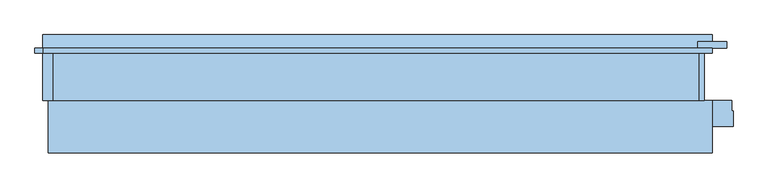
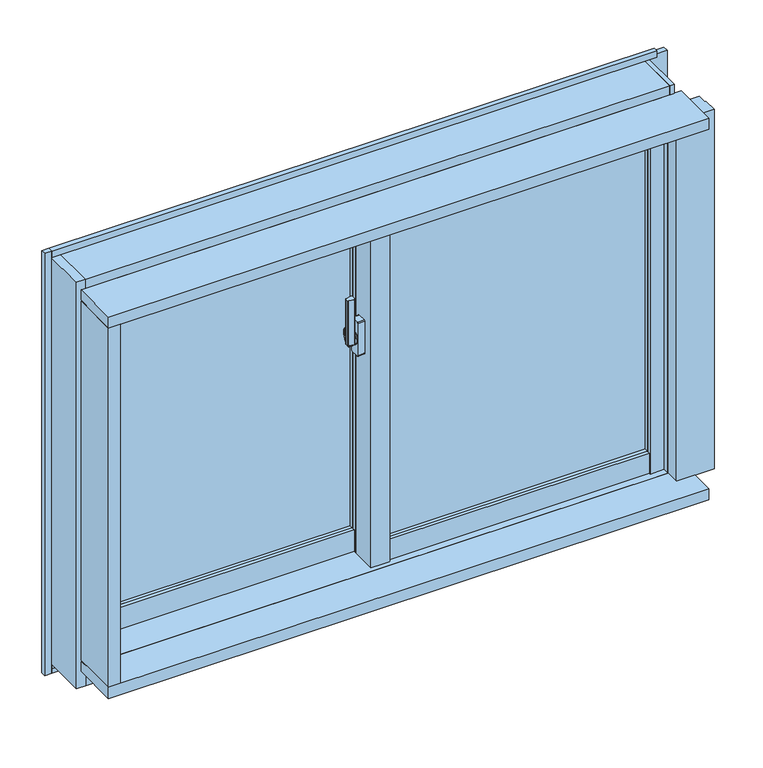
"""IFC4 building model written with IfcOpenShell, lengths in millimetres: window geometry, FNSⅡ100R_個別防火_ALC枠_単窓 : 引違."""

from ifc_helpers import new_model, si_unit, point, frame, frame_2d, origin, place, context, project, spatial, polyline, circle_curve, trimmed, segment, composite_curve, outline, extrude, faceted_brep, source, transform, mapped, element, save
from ifc_brep_helpers import plane_surface, cylinder_surface, revolved_surface, advanced_brep


def window_6e129dcf(model_context):
    return source(origin(), model_context, "Body", "SolidModel", [
        extrude(outline(composite_curve([segment(polyline([(-39.0, 14.6), (-39.0, 6.4)]), True, "CONTINUOUS"), segment(trimmed(circle_curve(frame_2d((-41.0, 6.4)), 2.0), [point((-39.0, 6.4))], [point((-41.3606557, 4.4327869))], False, "CARTESIAN"), True, "CONTINUOUS"), segment(polyline([(-41.3606557, 4.4327869), (-52.3606557, 6.4494536)]), True, "CONTINUOUS"), segment(trimmed(circle_curve(frame_2d((-52.0, 8.4166667)), 2.0), [point((-52.3606557, 6.4494536))], [point((-54.0, 8.4166667))], False, "CARTESIAN"), True, "CONTINUOUS"), segment(polyline([(-54.0, 8.4166667), (-54.0, 12.5833333)]), True, "CONTINUOUS"), segment(trimmed(circle_curve(frame_2d((-52.0, 12.5833333)), 2.0), [point((-54.0, 12.5833333))], [point((-52.3606557, 14.5505464))], False, "CARTESIAN"), True, "CONTINUOUS"), segment(polyline([(-52.3606557, 14.5505464), (-41.3606557, 16.5672131)]), True, "CONTINUOUS"), segment(trimmed(circle_curve(frame_2d((-41.0, 14.6)), 2.0), [point((-41.3606557, 16.5672131))], [point((-39.0, 14.6))], False, "CARTESIAN"), True, "CONTINUOUS")], self_intersect=False)), frame((0.0, 0.0, 1390.0), z_axis=(0.0, 0.0, 1.0), x_axis=(1.0, 0.0, 0.0)), (0.0, 0.0, 1.0), 100.0),
        advanced_brep(
        [(-37.5, 18.8234285, 1421.7333311), (-45.5, 18.8234285, 1421.7333311), (-45.5, 18.4351999, 1420.2844424), (-39.0, 18.4351999, 1420.2844424), (-39.0, 16.6234666, 1413.5229616), (-37.5, 16.6234666, 1413.5229616), (-39.0, 16.6466117, 1379.3190372), (-45.5, 16.6466117, 1379.3190372), (-45.5, 16.907084, 1377.8418256), (-37.5, 16.907084, 1377.8418256), (-37.5, 15.4310745, 1386.2126915), (-39.0, 15.4310745, 1386.2126915)],
        [
            (0, 1),
            (1, 2),
            (2, 3),
            (3, 4),
            (4, 5),
            (5, 0),
            (6, 7),
            (7, 8),
            (8, 9),
            (9, 10),
            (10, 11),
            (11, 6),
            (0, 9, circle_curve(frame((-37.5, 13.0, 1400.0), z_axis=(-1.0, 0.0, 0.0), x_axis=(0.0, 0.25881904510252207, 0.965925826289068)), 22.5)),
            (8, 1, circle_curve(frame((-45.5, 13.0, 1400.0), z_axis=(1.0, 0.0, 0.0), x_axis=(0.0, 0.25881904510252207, 0.965925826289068)), 22.5)),
            (7, 2, circle_curve(frame((-45.5, 13.0, 1400.0), z_axis=(1.0, 0.0, 0.0), x_axis=(0.0, 0.25881904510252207, 0.965925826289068)), 21.0)),
            (6, 3, circle_curve(frame((-39.0, 13.0, 1400.0), z_axis=(1.0, 0.0, 0.0), x_axis=(0.0, 0.25881904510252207, 0.965925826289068)), 21.0)),
            (11, 4, circle_curve(frame((-39.0, 13.0, 1400.0), z_axis=(-1.0, 0.0, 0.0), x_axis=(0.0, -1.0, 0.0)), 14.0)),
            (5, 10, circle_curve(frame((-37.5, 13.0, 1400.0), z_axis=(1.0, 0.0, 0.0), x_axis=(0.0, -1.0, 0.0)), 14.0)),
        ],
        [
            plane_surface(frame((-43.5470497, 13.0, 1400.0), z_axis=(0.0, -0.965925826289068, 0.25881904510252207), x_axis=(0.0, 0.25881904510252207, 0.965925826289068))),
            plane_surface(frame((-43.5470497, 13.0, 1400.0), z_axis=(0.0, -0.9848077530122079, -0.17364817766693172), x_axis=(0.0, 0.17364817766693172, -0.9848077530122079))),
            cylinder_surface(frame((-43.5470497, 13.0, 1400.0), z_axis=(-1.0, 0.0, 0.0), x_axis=(0.0, 0.25881904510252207, 0.965925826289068)), 22.5),
            plane_surface(frame((-45.5, 13.0, 1400.0), z_axis=(-1.0, 0.0, 0.0), x_axis=(0.0, 0.25881904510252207, 0.965925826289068))),
            revolved_surface(polyline([(-45.5, 18.435199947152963, 1420.2844423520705), (-39.0, 18.435199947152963, 1420.2844423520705)]), (-43.5470497, 13.0, 1400.0), (-1.0, 0.0, 0.0)),
            plane_surface(frame((-39.0, 13.0, 1400.0), z_axis=(-1.0, 0.0, 0.0), x_axis=(0.0, 0.25881904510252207, 0.965925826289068))),
            plane_surface(frame((-37.5, 13.0, 1400.0), z_axis=(1.0, 0.0, 0.0), x_axis=(0.0, 0.25881904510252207, 0.965925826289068))),
            cylinder_surface(frame((-37.5, 13.0, 1400.0), z_axis=(-1.0, 0.0, 0.0), x_axis=(0.0, -1.0, 0.0)), 14.0),
        ],
        [
            (0, [[1, 2, 3, 4, 5, 6]]),
            (1, [[7, 8, 9, 10, 11, 12]]),
            (2, [[-1, 13, -9, 14]]),
            (3, [[-2, -14, -8, 15]]),
            (4, [[-3, -15, -7, 16]]),
            (5, [[-16, -12, 17, -4]]),
            (6, [[-13, -6, 18, -10]]),
            (7, [[-17, -11, -18, -5]]),
        ],
    ),
        extrude(outline(composite_curve([segment(trimmed(circle_curve(frame_2d((13.0, 1400.0)), 11.5), [point((24.5, 1400.0))], [point((1.5, 1400.0))], False, "CARTESIAN"), True, "CONTINUOUS"), segment(trimmed(circle_curve(frame_2d((13.0, 1400.0)), 11.5), [point((1.5, 1400.0))], [point((24.5, 1400.0))], False, "CARTESIAN"), True, "CONTINUOUS")], self_intersect=False)), frame((-37.5, 0.0, 0.0), z_axis=(1.0, 0.0, 0.0), x_axis=(0.0, 1.0, 0.0)), (0.0, 0.0, 1.0), 2.5),
        extrude(outline(composite_curve([segment(polyline([(4.0, 1437.5), (22.0, 1437.5)]), True, "CONTINUOUS"), segment(trimmed(circle_curve(frame_2d((22.0, 1435.5)), 2.0), [point((22.0, 1437.5))], [point((24.0, 1435.5))], False, "CARTESIAN"), True, "CONTINUOUS"), segment(polyline([(24.0, 1435.5), (24.0, 1364.5)]), True, "CONTINUOUS"), segment(trimmed(circle_curve(frame_2d((22.0, 1364.5)), 2.0), [point((24.0, 1364.5))], [point((22.0, 1362.5))], False, "CARTESIAN"), True, "CONTINUOUS"), segment(polyline([(22.0, 1362.5), (4.0, 1362.5)]), True, "CONTINUOUS"), segment(trimmed(circle_curve(frame_2d((4.0, 1364.5)), 2.0), [point((4.0, 1362.5))], [point((2.0, 1364.5))], False, "CARTESIAN"), True, "CONTINUOUS"), segment(polyline([(2.0, 1364.5), (2.0, 1435.5)]), True, "CONTINUOUS"), segment(trimmed(circle_curve(frame_2d((4.0, 1435.5)), 2.0), [point((2.0, 1435.5))], [point((4.0, 1437.5))], False, "CARTESIAN"), True, "CONTINUOUS")], self_intersect=False)), frame((-35.0, 0.0, 0.0), z_axis=(1.0, 0.0, 0.0), x_axis=(0.0, 1.0, 0.0)), (0.0, 0.0, 1.0), 15.0),
        extrude(outline(polyline([(20.0, 4.0), (568.0, 4.0), (568.0, -2.0), (20.0, -2.0), (20.0, 4.0)])), frame((0.0, 0.0, 948.0), z_axis=(0.0, 0.0, 1.0), x_axis=(1.0, 0.0, 0.0)), (0.0, 0.0, 1.0), 712.0),
        extrude(outline(polyline([(20.0, 22.0), (568.0, 22.0), (568.0, 16.0), (20.0, 16.0), (20.0, 22.0)])), frame((0.0, 0.0, 948.0), z_axis=(0.0, 0.0, 1.0), x_axis=(1.0, 0.0, 0.0)), (0.0, 0.0, 1.0), 712.0),
        extrude(outline(polyline([(-568.0, 62.0), (-20.0, 62.0), (-20.0, 56.0), (-568.0, 56.0), (-568.0, 62.0)])), frame((0.0, 0.0, 948.0), z_axis=(0.0, 0.0, 1.0), x_axis=(1.0, 0.0, 0.0)), (0.0, 0.0, 1.0), 712.0),
        extrude(outline(polyline([(-568.0, 80.0), (-20.0, 80.0), (-20.0, 74.0), (-568.0, 74.0), (-568.0, 80.0)])), frame((0.0, 0.0, 948.0), z_axis=(0.0, 0.0, 1.0), x_axis=(1.0, 0.0, 0.0)), (0.0, 0.0, 1.0), 712.0),
        faceted_brep([(-589.5, 59.0, 1700.0), (-600.0, 59.0, 1700.0), (-600.0, 59.0, 860.0), (-568.0, 59.0, 860.0), (-568.0, 59.0, 900.0), (-589.5, 59.0, 900.0), (-589.5, 46.0, 1700.0), (-589.5, 46.0, 900.0), (-568.0, 46.0, 1700.0), (-568.0, 46.0, 900.0), (-600.0, 88.0, 1700.0), (-568.0, 88.0, 1700.0), (-568.0, 88.0, 860.0), (-600.0, 88.0, 860.0)], [[[0, 1, 2, 3, 4, 5]], [[6, 0, 5, 7]], [[8, 6, 7, 9]], [[10, 11, 12, 13]], [[2, 1, 10, 13]], [[5, 4, 9, 7]], [[1, 0, 6, 8, 11, 10]], [[3, 2, 13, 12]], [[11, 8, 9, 4, 3, 12]]]),
        faceted_brep([(-1.8, 45.5, 1700.0), (-20.0, 45.5, 1700.0), (-20.0, 45.5, 900.0), (-1.8, 45.5, 900.0), (-1.8, 33.1, 1700.0), (-1.8, 33.1, 900.0), (20.0, 33.1, 1700.0), (20.0, 33.1, 900.0), (-20.0, 88.0, 1700.0), (20.0, 88.0, 1700.0), (20.0, 88.0, 860.0), (-20.0, 88.0, 860.0), (-20.0, 59.0, 900.0), (20.0, 59.0, 900.0), (20.0, 59.0, 860.0), (-20.0, 59.0, 860.0)], [[[0, 1, 2, 3]], [[4, 0, 3, 5]], [[6, 4, 5, 7]], [[8, 9, 10, 11]], [[12, 13, 7, 5, 3, 2]], [[1, 0, 4, 6, 9, 8]], [[11, 10, 14, 15]], [[9, 6, 7, 13, 14, 10]], [[1, 8, 11, 15, 12, 2]], [[13, 12, 15, 14]]]),
        extrude(outline(polyline([(-20.0, 33.1), (-15.0, 33.1), (-15.0, -12.0), (15.0, -12.0), (15.0, -8.0), (20.0, -8.0), (20.0, -20.0), (-20.0, -20.0), (-20.0, 33.1)])), frame((0.0, 0.0, 900.0), z_axis=(0.0, 0.0, 1.0), x_axis=(1.0, 0.0, 0.0)), (0.0, 0.0, 1.0), 800.0),
        extrude(outline(polyline([(-15.0, 33.1), (20.0, 33.1), (20.0, -8.0), (15.0, -8.0), (15.0, -12.0), (-15.0, -12.0), (-15.0, 33.1)])), frame((0.0, 0.0, 900.0), z_axis=(0.0, 0.0, 1.0), x_axis=(1.0, 0.0, 0.0)), (0.0, 0.0, 1.0), 800.0),
        extrude(outline(polyline([(568.0, -20.0), (568.0, -12.0), (589.5, -12.0), (589.5, 1.0), (597.0, 1.0), (597.0, -20.0), (568.0, -20.0)])), frame((0.0, 0.0, 903.0), z_axis=(0.0, 0.0, 1.0), x_axis=(1.0, 0.0, 0.0)), (0.0, 0.0, 1.0), 797.0),
        extrude(outline(polyline([(568.0, 30.0), (600.0, 30.0), (600.0, 1.0), (589.5, 1.0), (589.5, -12.0), (568.0, -12.0), (568.0, 30.0)])), frame((0.0, 0.0, 900.0), z_axis=(0.0, 0.0, 1.0), x_axis=(1.0, 0.0, 0.0)), (0.0, 0.0, 1.0), 800.0),
        extrude(outline(polyline([(-1.85, 45.5), (-1.85, 38.0), (-20.0, 38.0), (-20.0, 45.5), (-1.85, 45.5)])), frame((0.0, 0.0, 900.0), z_axis=(0.0, 0.0, 1.0), x_axis=(1.0, 0.0, 0.0)), (0.0, 0.0, 1.0), 800.0),
        extrude(outline(polyline([(-597.0, 59.0), (-589.5, 59.0), (-589.5, 46.0), (-568.0, 46.0), (-568.0, 38.0), (-597.0, 38.0), (-597.0, 59.0)])), frame((0.0, 0.0, 900.0), z_axis=(0.0, 0.0, 1.0), x_axis=(1.0, 0.0, 0.0)), (0.0, 0.0, 1.0), 800.0),
        extrude(outline(polyline([(-18.0, 903.0), (-18.0, 948.0), (-10.0, 948.0), (-10.0, 925.5), (1.0, 925.5), (1.0, 903.0), (-18.0, 903.0)])), frame((20.0, 0.0, 0.0), z_axis=(1.0, 0.0, 0.0), x_axis=(0.0, 1.0, 0.0)), (0.0, 0.0, 1.0), 548.0),
        extrude(outline(polyline([(30.0, 900.0), (1.0, 900.0), (1.0, 925.5), (-10.0, 925.5), (-10.0, 948.0), (30.0, 948.0), (30.0, 900.0)])), frame((20.0, 0.0, 0.0), z_axis=(1.0, 0.0, 0.0), x_axis=(0.0, 1.0, 0.0)), (0.0, 0.0, 1.0), 548.0),
        extrude(outline(polyline([(40.0, 948.0), (48.0, 948.0), (48.0, 925.5), (59.0, 925.5), (59.0, 900.0), (40.0, 900.0), (40.0, 948.0)])), frame((-568.0, 0.0, 0.0), z_axis=(1.0, 0.0, 0.0), x_axis=(0.0, 1.0, 0.0)), (0.0, 0.0, 1.0), 548.0),
        extrude(outline(polyline([(88.0, 860.0), (59.0, 860.0), (59.0, 925.5), (48.0, 925.5), (48.0, 948.0), (88.0, 948.0), (88.0, 860.0)])), frame((-568.0, 0.0, 0.0), z_axis=(1.0, 0.0, 0.0), x_axis=(0.0, 1.0, 0.0)), (0.0, 0.0, 1.0), 548.0),
        extrude(outline(polyline([(3.0, 1680.5), (-10.0, 1680.5), (-10.0, 1660.0), (-18.0, 1660.0), (-18.0, 1700.0), (3.0, 1700.0), (3.0, 1680.5)])), frame((20.0, 0.0, 0.0), z_axis=(1.0, 0.0, 0.0), x_axis=(0.0, 1.0, 0.0)), (0.0, 0.0, 1.0), 548.0),
        extrude(outline(polyline([(30.0, 1700.0), (30.0, 1660.0), (-10.0, 1660.0), (-10.0, 1680.5), (3.0, 1680.5), (3.0, 1700.0), (30.0, 1700.0)])), frame((20.0, 0.0, 0.0), z_axis=(1.0, 0.0, 0.0), x_axis=(0.0, 1.0, 0.0)), (0.0, 0.0, 1.0), 548.0),
        extrude(outline(polyline([(61.0, 1680.5), (48.0, 1680.5), (48.0, 1660.0), (40.0, 1660.0), (40.0, 1700.0), (61.0, 1700.0), (61.0, 1680.5)])), frame((-568.0, 0.0, 0.0), z_axis=(1.0, 0.0, 0.0), x_axis=(0.0, 1.0, 0.0)), (0.0, 0.0, 1.0), 548.0),
        extrude(outline(polyline([(88.0, 1700.0), (88.0, 1660.0), (48.0, 1660.0), (48.0, 1680.5), (61.0, 1680.5), (61.0, 1700.0), (88.0, 1700.0)])), frame((-568.0, 0.0, 0.0), z_axis=(1.0, 0.0, 0.0), x_axis=(0.0, 1.0, 0.0)), (0.0, 0.0, 1.0), 548.0),
        extrude(outline(polyline([(-15.0, 60.3), (-15.0, 11.9), (-600.0, 11.9), (-600.0, 60.3), (-15.0, 60.3)])), frame((0.0, 0.0, 1700.0), z_axis=(0.0, 0.0, 1.0), x_axis=(1.0, 0.0, 0.0)), (0.0, 0.0, 1.0), 25.0),
        faceted_brep([(615.0, 60.3, 1725.0), (615.0, -10.0, 1725.0), (-615.0, -10.0, 1725.0), (-615.0, 60.3, 1725.0), (-15.0, 60.3, 1725.0), (-15.0, 11.9, 1725.0), (600.0, 11.9, 1725.0), (600.0, 60.3, 1725.0), (-615.0, 60.3, 1700.0), (-15.0, 60.3, 1700.0), (615.0, 60.3, 1700.0), (600.0, 60.3, 1700.0), (615.0, 90.0, 1700.0), (600.0, 11.9, 1700.0), (-15.0, 11.9, 1700.0), (-615.0, 90.0, 1700.0), (615.0, 90.0, 1745.0), (-615.0, 90.0, 1745.0), (615.0, -10.0, 1745.0), (-615.0, -10.0, 1745.0)], [[[0, 1, 2, 3, 4, 5, 6, 7]], [[3, 8, 9, 4]], [[10, 0, 7, 11]], [[12, 10, 11, 13, 14, 9, 8, 15]], [[16, 12, 15, 17]], [[18, 16, 17, 19]], [[1, 18, 19, 2]], [[12, 16, 18, 1, 0, 10]], [[15, 8, 3, 2, 19, 17]], [[6, 13, 11, 7]], [[9, 14, 5, 4]], [[13, 6, 5, 14]]]),
        extrude(outline(polyline([(11.9, 1700.0), (-30.0, 1700.0), (-30.0, 1703.0), (-10.0, 1703.0), (-10.0, 1725.0), (11.9, 1725.0), (11.9, 1700.0)])), frame((-600.0, 0.0, 0.0), z_axis=(1.0, 0.0, 0.0), x_axis=(0.0, 1.0, 0.0)), (0.0, 0.0, 1.0), 1200.0),
        faceted_brep([(600.0, -30.0, 900.0), (603.0, -30.0, 900.0), (603.0, -30.0, 1703.0), (600.0, -30.0, 1703.0), (600.0, -5.5, 1720.0), (615.0, -5.5, 1720.0), (615.0, -5.5, 900.0), (600.0, -5.5, 900.0), (600.0, -10.0, 1703.0), (600.0, -10.0, 1720.0), (603.0, -10.0, 1703.0), (615.0, -10.0, 1720.0), (615.0, -10.0, 900.0), (603.0, -10.0, 900.0)], [[[0, 1, 2, 3]], [[4, 5, 6, 7]], [[7, 0, 3, 8, 9, 4]], [[10, 8, 3, 2]], [[9, 11, 5, 4]], [[0, 7, 6, 12, 13, 1]], [[1, 13, 10, 2]], [[9, 8, 10, 13, 12, 11]], [[5, 11, 12, 6]]]),
        faceted_brep([(-615.0, 56.0, 1720.0), (-600.0, 56.0, 1720.0), (-600.0, 56.0, 900.0), (-615.0, 56.0, 900.0), (-615.0, -10.0, 1720.0), (-600.0, -10.0, 1720.0), (-615.0, -10.0, 900.0), (-600.0, -30.0, 900.0), (-603.0, -30.0, 900.0), (-603.0, -10.0, 900.0), (-603.0, -10.0, 1703.0), (-600.0, -10.0, 1703.0), (-603.0, -30.0, 1703.0), (-600.0, -30.0, 1703.0)], [[[0, 1, 2, 3]], [[4, 5, 1, 0]], [[6, 3, 2, 7, 8, 9]], [[6, 9, 10, 11, 5, 4]], [[9, 8, 12, 10]], [[8, 7, 13, 12]], [[7, 2, 1, 5, 11, 13]], [[6, 4, 0, 3]], [[11, 10, 12, 13]]]),
        faceted_brep([(-635.0, 90.0, 840.0), (-615.0, 90.0, 840.0), (-615.0, -10.0, 840.0), (-635.0, -10.0, 840.0), (-615.0, -10.0, 1745.0), (-635.0, -10.0, 1745.0), (-600.0, 90.0, 849.0), (-600.0, 56.0, 849.0), (-615.0, 56.0, 849.0), (-615.0, 90.0, 849.0), (-600.0, 56.0, 1700.0), (-615.0, 56.0, 1700.0), (-635.0, 90.0, 1745.0), (-615.0, 90.0, 1745.0), (-615.0, 90.0, 1700.0), (-600.0, 90.0, 1700.0)], [[[0, 1, 2, 3]], [[4, 5, 3, 2]], [[6, 7, 8, 9]], [[10, 11, 8, 7]], [[12, 5, 4, 13]], [[5, 12, 0, 3]], [[13, 4, 2, 1, 9, 8, 11, 14]], [[12, 13, 14, 15, 6, 9, 1, 0]], [[15, 14, 11, 10]], [[15, 10, 7, 6]]]),
        faceted_brep([(615.0, -10.0, 840.0), (615.0, 90.0, 840.0), (625.0, 90.0, 840.0), (625.0, -10.0, 840.0), (600.0, -5.5, 849.0), (600.0, 90.0, 849.0), (615.0, 90.0, 849.0), (615.0, -5.5, 849.0), (615.0, -10.0, 1745.0), (615.0, 90.0, 1745.0), (615.0, 90.0, 1700.0), (615.0, -5.5, 1700.0), (625.0, -10.0, 1745.0), (625.0, 90.0, 1745.0), (600.0, -5.5, 1700.0), (600.0, 90.0, 1700.0)], [[[0, 1, 2, 3]], [[4, 5, 6, 7]], [[8, 9, 10, 11, 7, 6, 1, 0]], [[8, 12, 13, 9]], [[11, 14, 4, 7]], [[14, 15, 5, 4]], [[14, 11, 10, 15]], [[12, 8, 0, 3]], [[13, 12, 3, 2]], [[9, 13, 2, 1, 6, 5, 15, 10]]]),
        faceted_brep([(615.0, 56.0, 849.0), (615.0, 90.0, 849.0), (-615.0, 90.0, 849.0), (-615.0, 56.0, 849.0), (615.0, -10.0, 884.0), (615.0, 56.0, 884.0), (-615.0, 56.0, 884.0), (-615.0, -10.0, 884.0), (600.0, 17.25, 884.0), (600.0, -1.2, 884.0), (-15.0, -1.2, 884.0), (-15.0, 17.25, 884.0), (615.0, 90.0, 840.0), (615.0, -10.0, 840.0), (-615.0, -10.0, 840.0), (-615.0, 90.0, 840.0), (600.0, -1.2, 900.0), (600.0, 17.25, 900.0), (-15.0, -1.2, 900.0), (-15.0, 17.25, 900.0)], [[[0, 1, 2, 3]], [[4, 5, 6, 7], [8, 9, 10, 11]], [[5, 0, 3, 6]], [[12, 13, 14, 15]], [[12, 1, 0, 5, 4, 13]], [[15, 14, 7, 6, 3, 2]], [[13, 4, 7, 14]], [[1, 12, 15, 2]], [[16, 9, 8, 17]], [[18, 19, 11, 10]], [[9, 16, 18, 10]], [[17, 8, 11, 19]], [[16, 17, 19, 18]]]),
        faceted_brep([(-603.0, -10.0, 884.0), (-603.0, -10.0, 897.0), (-603.0, -30.0, 897.0), (-603.0, -30.0, 900.0), (-603.0, -1.2, 900.0), (-603.0, -1.2, 884.0), (603.0, -10.0, 897.0), (603.0, -30.0, 897.0), (603.0, -30.0, 900.0), (603.0, -5.5, 900.0), (600.0, -5.5, 900.0), (600.0, -1.2, 900.0), (-15.0, -1.2, 900.0), (-15.0, 56.0, 900.0), (-600.0, 56.0, 900.0), (-600.0, -1.2, 900.0), (-600.0, -1.2, 884.0), (600.0, -1.2, 884.0), (-15.0, -1.2, 884.0), (603.0, -10.0, 884.0), (603.0, -5.5, 884.0), (-600.0, 56.0, 884.0), (-15.0, 56.0, 884.0), (600.0, -5.5, 884.0)], [[[0, 1, 2, 3, 4, 5]], [[6, 7, 2, 1]], [[7, 8, 3, 2]], [[4, 3, 8, 9, 10, 11, 12, 13, 14, 15]], [[5, 4, 15, 16]], [[11, 17, 18, 12]], [[8, 7, 6, 19, 20, 9]], [[19, 6, 1, 0]], [[0, 5, 16, 21, 22, 18, 17, 23, 20, 19]], [[10, 23, 17, 11]], [[23, 10, 9, 20]], [[13, 12, 18, 22]], [[14, 21, 16, 15]], [[13, 22, 21, 14]]]),
        extrude(outline(polyline([(-110.0, 900.0), (-30.0, 900.0), (-30.0, 897.0), (-10.0, 897.0), (-10.0, 875.0), (-110.0, 875.0), (-110.0, 900.0)])), frame((-625.0, 0.0, 0.0), z_axis=(1.0, 0.0, 0.0), x_axis=(0.0, 1.0, 0.0)), (0.0, 0.0, 1.0), 1265.0),
        extrude(outline(polyline([(-635.0, 80.0), (-635.0, 90.0), (640.0, 90.0), (640.0, 80.0), (-635.0, 80.0)])), frame((0.0, 0.0, 830.0), z_axis=(0.0, 0.0, 1.0), x_axis=(1.0, 0.0, 0.0)), (0.0, 0.0, 1.0), 10.0),
        extrude(outline(polyline([(100.0, 807.0), (100.0, 820.0), (80.0, 820.0), (80.0, 830.0), (90.0, 830.0), (115.0, 825.0), (115.0, 807.0), (100.0, 807.0)])), frame((-635.0, 0.0, 0.0), z_axis=(1.0, 0.0, 0.0), x_axis=(0.0, 1.0, 0.0)), (0.0, 0.0, 1.0), 1275.0),
        extrude(outline(polyline([(-603.0, -10.0), (-603.0, -30.0), (-600.0, -30.0), (-600.0, -110.0), (-625.0, -110.0), (-625.0, -10.0), (-603.0, -10.0)])), frame((0.0, 0.0, 900.0), z_axis=(0.0, 0.0, 1.0), x_axis=(1.0, 0.0, 0.0)), (0.0, 0.0, 1.0), 800.0),
        extrude(outline(polyline([(-650.0, 90.0), (-635.0, 90.0), (-635.0, 80.0), (-650.0, 80.0), (-650.0, 90.0)])), frame((0.0, 0.0, 820.0), z_axis=(0.0, 0.0, 1.0), x_axis=(1.0, 0.0, 0.0)), (0.0, 0.0, 1.0), 940.0),
        extrude(outline(polyline([(603.0, -30.0), (603.0, -10.0), (677.0, -10.0), (677.0, -30.0), (680.0, -30.0), (680.0, -60.0), (600.0, -60.0), (600.0, -30.0), (603.0, -30.0)])), frame((0.0, 0.0, 900.0), z_axis=(0.0, 0.0, 1.0), x_axis=(1.0, 0.0, 0.0)), (0.0, 0.0, 1.0), 800.0),
        extrude(outline(polyline([(667.5, 90.0), (612.5, 90.0), (612.5, 102.0), (667.5, 102.0), (667.5, 90.0)])), frame((0.0, 0.0, 840.0), z_axis=(0.0, 0.0, 1.0), x_axis=(1.0, 0.0, 0.0)), (0.0, 0.0, 1.0), 905.0),
        extrude(outline(polyline([(-110.0, 1725.0), (-10.0, 1725.0), (-10.0, 1703.0), (-30.0, 1703.0), (-30.0, 1700.0), (-110.0, 1700.0), (-110.0, 1725.0)])), frame((-625.0, 0.0, 0.0), z_axis=(1.0, 0.0, 0.0), x_axis=(0.0, 1.0, 0.0)), (0.0, 0.0, 1.0), 1265.0),
        extrude(outline(polyline([(-635.0, 80.0), (-635.0, 90.0), (640.0, 90.0), (640.0, 80.0), (-635.0, 80.0)])), frame((0.0, 0.0, 1745.0), z_axis=(0.0, 0.0, 1.0), x_axis=(1.0, 0.0, 0.0)), (0.0, 0.0, 1.0), 15.0),
    ])


if __name__ == "__main__":
    model = new_model("IFC4")
    model_context = context("Model", 3, world=origin())
    ifc_project = project(units=[si_unit("LENGTHUNIT", "METRE", prefix="MILLI")], contexts=[model_context])
    site = spatial("IfcSite", under=ifc_project)
    building = spatial("IfcBuilding", under=site)
    placement = place(None, origin())
    window_shape = window_6e129dcf(model_context)
    element("IfcWindow", 1, ObjectType="FNSⅡ100R_個別防火_ALC枠_単窓 : 引違", at=placement, inside=building, context=model_context, shape_type="MappedRepresentation", body=[
        mapped(window_shape, transform((0.0, 0.0, 0.0), x_axis=(1.0, 0.0, 0.0), y_axis=(0.0, 1.0, 0.0), z_axis=(0.0, 0.0, 1.0))),
    ])
    save(model, "model.ifc")
